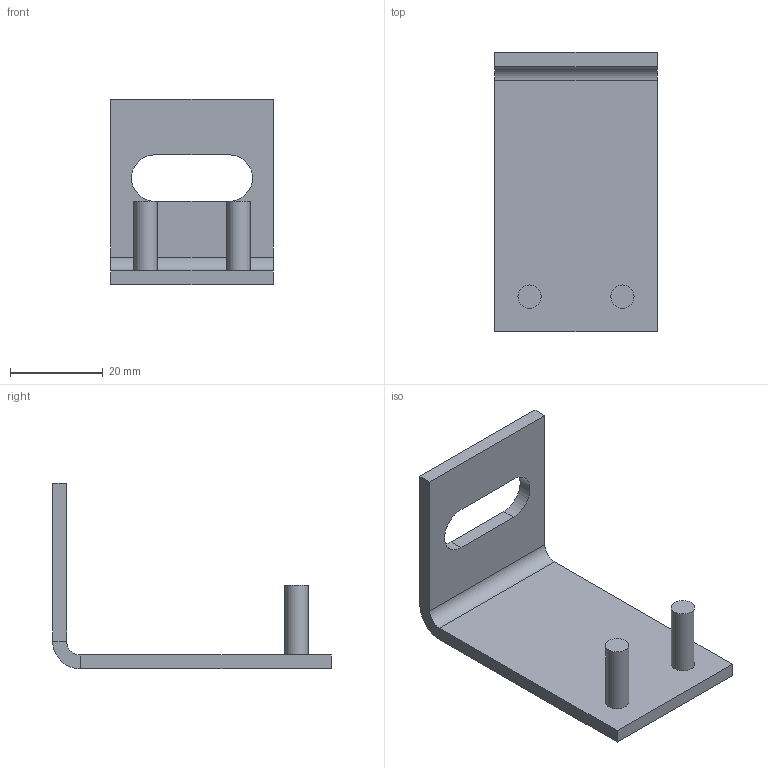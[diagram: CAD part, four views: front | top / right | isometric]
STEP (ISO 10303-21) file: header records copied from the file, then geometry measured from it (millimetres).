
FILE_DESCRIPTION(/* description */ (''),/* implementation_level */ '2;1');
FILE_NAME(/* name */ 'GE-YLD.step',/* time_stamp */ '2025-12-16T17:29:26+03:00',/* author */ (''),/* organization */ (''),/* preprocessor_version */ 'ST-DEVELOPER v20.1',/* originating_system */ 'Autodesk Translation Framework v14.21.0.0',/* authorisation */ '');
FILE_SCHEMA (('AUTOMOTIVE_DESIGN { 1 0 10303 214 3 1 1 }'));
Length unit declared in the file: millimetre
Products named in the file (1): GE-YLD
Bounding box: 35 x 60 x 40 mm (x, y, z)
Volume: 9855.6 mm3; surface area: 7619.6 mm2
Topology: 1 solids, 1 shells, 22 faces, 46 edges, 28 vertices
Faces by surface type: plane 16, cylinder 6
Full cylindrical faces by diameter (mm): 5 x2
Entity records: 615 total; most frequent: DIRECTION 104, CARTESIAN_POINT 97, ORIENTED_EDGE 92, EDGE_CURVE 46, AXIS2_PLACEMENT_3D 35, LINE 34, VECTOR 34, VERTEX_POINT 28
